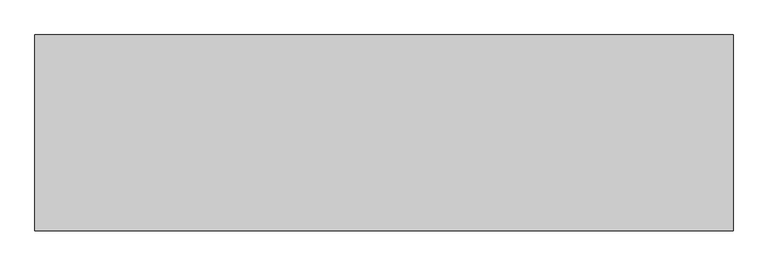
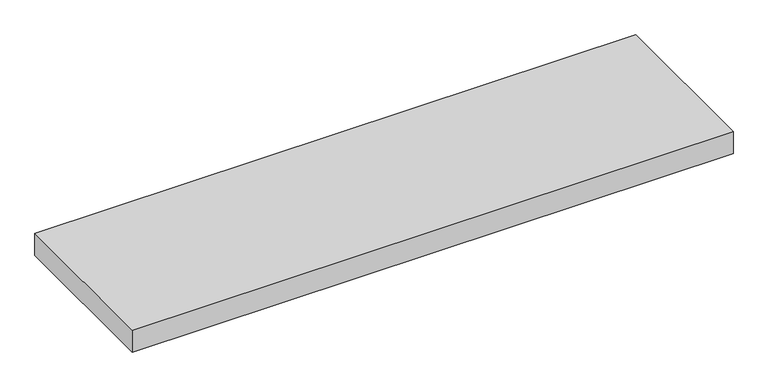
"""IFC4 building model written with IfcOpenShell, lengths in millimetres: proxy geometry, 機械基礎 : 機械基礎."""

from ifc_helpers import new_model, si_unit, origin, origin_with_axes, place, context, project, spatial, polyline, outline, extrude, source, transform, mapped, element, save


def specialty_equipment_278ae101(model_context):
    return source(origin(), model_context, "Body", "SweptSolid", [
        extrude(outline(polyline([(1942.0, -545.0), (-1942.0, -545.0), (-1942.0, 545.0), (1942.0, 545.0), (1942.0, -545.0)])), origin_with_axes(), (0.0, 0.0, 1.0), 150.0),
    ])


if __name__ == "__main__":
    model = new_model("IFC4")
    model_context = context("Model", 3, world=origin())
    ifc_project = project(units=[si_unit("LENGTHUNIT", "METRE", prefix="MILLI")], contexts=[model_context])
    site = spatial("IfcSite", under=ifc_project)
    building = spatial("IfcBuilding", under=site)
    placement = place(None, origin())
    specialty_equipment_shape = specialty_equipment_278ae101(model_context)
    element("IfcBuildingElementProxy", 1, Name="機械基礎 : 機械基礎", ObjectType="機械基礎 : 機械基礎", at=placement, inside=building, context=model_context, shape_type="MappedRepresentation", body=[
        mapped(specialty_equipment_shape, transform((0.0, 0.0, 0.0), x_axis=(1.0, 0.0, 0.0), y_axis=(0.0, 1.0, 0.0), z_axis=(0.0, 0.0, 1.0))),
    ])
    save(model, "model.ifc")
